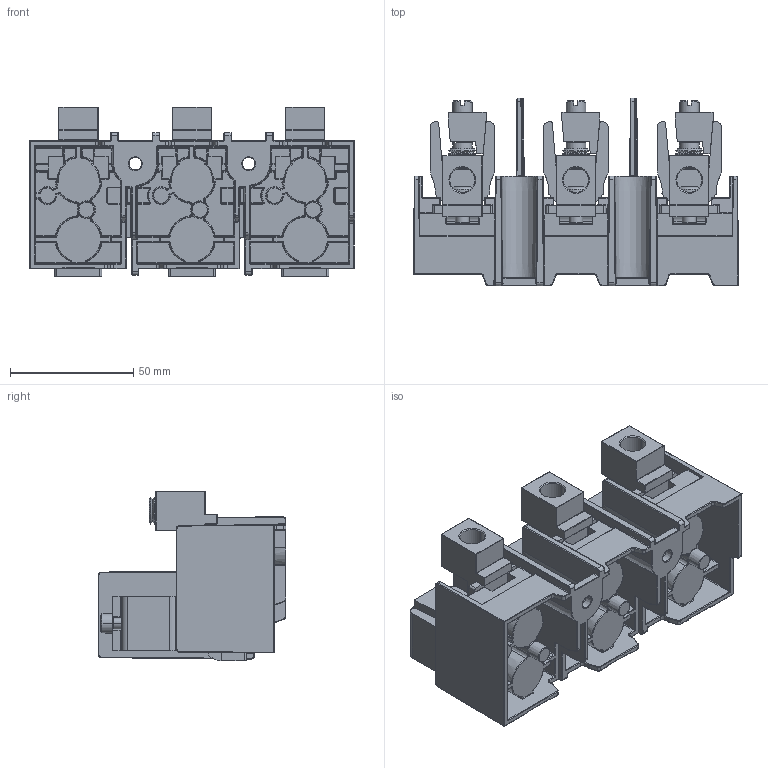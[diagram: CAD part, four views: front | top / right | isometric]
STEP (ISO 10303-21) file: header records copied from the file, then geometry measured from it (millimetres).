
FILE_DESCRIPTION((''),'2;1');
FILE_NAME('10001237276_ASM','2014-10-01T',('LEQuenti'),('Rockwell Automation'),'PRO/ENGINEER BY PARAMETRIC TECHNOLOGY CORPORATION, 2012480','PRO/ENGINEER BY PARAMETRIC TECHNOLOGY CORPORATION, 2012480','');
FILE_SCHEMA(('CONFIG_CONTROL_DESIGN'));
Products named in the file (10): 10000341110; 10000901699; 10001034530; 10000902411_ASM; 10000653616; G-15787; 40023-108; 10000707817; 40023-110-04; 10001237276_ASM
Assembly tree (23 placements, depth 3):
  10001237276_ASM
    10000902411_ASM
      10000341110
      10000901699  x3
      10001034530  x3
    10000653616  x3
    G-15787  x3
    40023-108  x3
    10000707817  x3
    40023-110-04  x3
Bounding box: 132.03 x 76.2 x 68.96 mm (x, y, z)
Volume: 147105.5 mm3; surface area: 110133.2 mm2
Topology: 22 solids, 40 shells, 4065 faces, 9549 edges, 5533 vertices
Faces by surface type: cylinder 1566, bspline 932, plane 795, sphere 331, torus 241, cone 194, revolution 6
Entity records: 130177 total; most frequent: CARTESIAN_POINT 63842, ORIENTED_EDGE 14466, DIRECTION 12969, EDGE_CURVE 7245, AXIS2_PLACEMENT_3D 5087, VERTEX_POINT 4109, EDGE_LOOP 3216, FACE_OUTER_BOUND 3165
